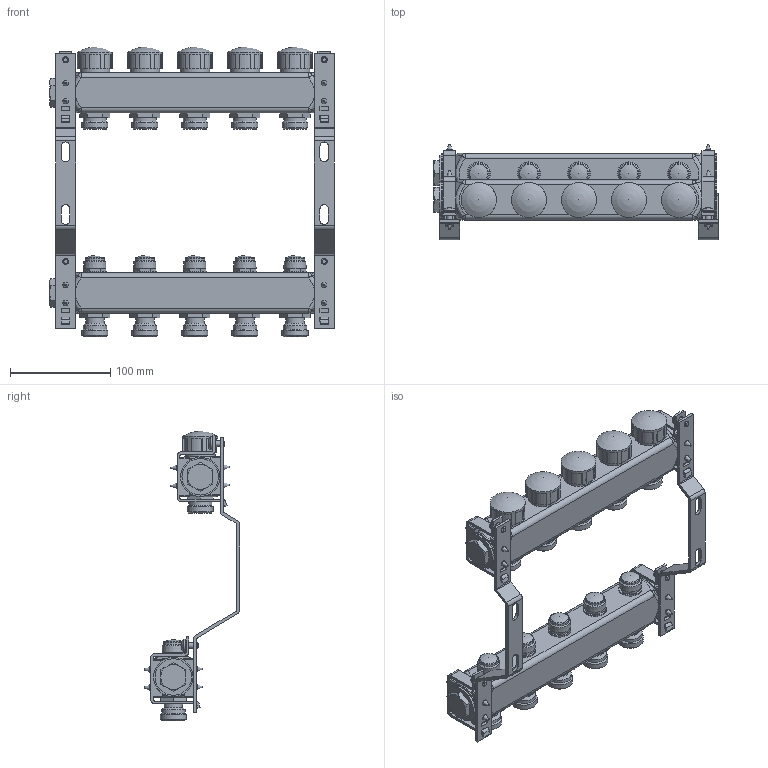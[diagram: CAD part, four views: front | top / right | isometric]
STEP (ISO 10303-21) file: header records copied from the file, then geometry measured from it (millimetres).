
FILE_DESCRIPTION(('STEP AP203'), '1');
FILE_NAME('VTc.582.EMNX.0605', '', ('UNSPECIFIED'), ('UNSPECIFIED'), 'C3D Converter', 'C3D Toolkit', '');
FILE_SCHEMA(('CONFIG_CONTROL_DESIGN'));
Length unit declared in the file: millimetre
Products named in the file (1): -02
Bounding box: 284.2 x 95.7 x 289.2 mm (x, y, z)
Volume: 1139077.3 mm3; surface area: 175963.9 mm2
Topology: 1 solids, 1 shells, 1021 faces, 2786 edges, 1780 vertices
Faces by surface type: plane 566, cylinder 264, cone 75, torus 70, bspline 36, sphere 10
Full cylindrical faces by diameter (mm): 5.4 x16, 6 x8, 12 x4, 18.4 x5, 19.3 x5, 22.9 x5, 23 x5, 23.5 x5, 25.9 x5, 26 x5, 29.5 x5, 34.9 x5, 35.3 x2, 36.5 x2, 39.3 x4
Entity records: 41998 total; most frequent: CARTESIAN_POINT 16962, ORIENTED_EDGE 5196, DIRECTION 5030, EDGE_CURVE 2598, AXIS2_PLACEMENT_3D 1782, VERTEX_POINT 1768, LINE 1466, VECTOR 1466
